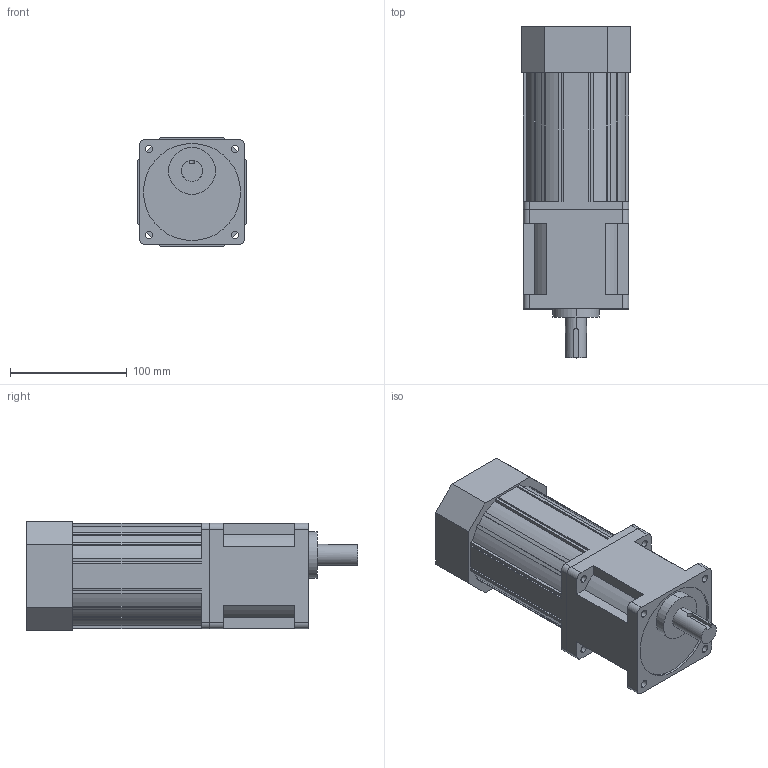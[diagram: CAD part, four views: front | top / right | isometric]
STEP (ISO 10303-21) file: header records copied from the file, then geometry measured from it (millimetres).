
FILE_DESCRIPTION (( 'STEP AP203' ), '1' );
FILE_NAME ('L9UK003B + L9I200PBH.STEP', '2018-09-20T05:37:39', ( '' ), ( '' ), 'SwSTEP 2.0', 'SolidWorks 2017', '' );
FILE_SCHEMA (( 'CONFIG_CONTROL_DESIGN' ));
Length unit declared in the file: millimetre
Products named in the file (1): L9UK003B + L9I200PBH
Bounding box: 94 x 284 x 94 mm (x, y, z)
Volume: 1700204.7 mm3; surface area: 125942.3 mm2
Topology: 2 solids, 2 shells, 170 faces, 486 edges, 324 vertices
Faces by surface type: plane 103, cylinder 67
Entity records: 5712 total; most frequent: CARTESIAN_POINT 1011, ORIENTED_EDGE 972, DIRECTION 959, EDGE_CURVE 486, VECTOR 351, LINE 351, VERTEX_POINT 324, AXIS2_PLACEMENT_3D 304
